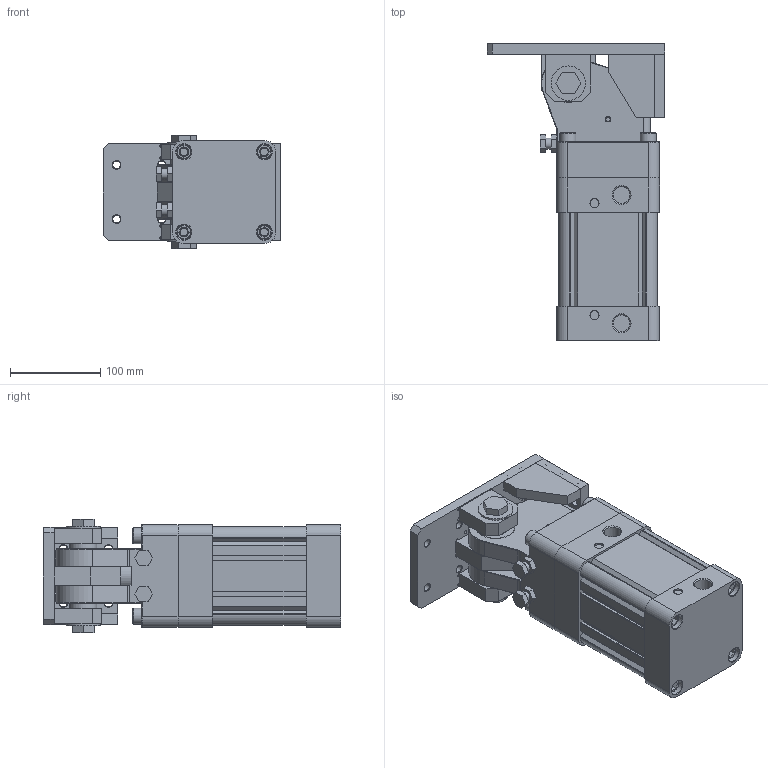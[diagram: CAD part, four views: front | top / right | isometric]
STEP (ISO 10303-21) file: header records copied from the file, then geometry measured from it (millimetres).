
FILE_DESCRIPTION(/* description */ (''),/* implementation_level */ '2;1');
FILE_NAME(/* name */ 'DHR2C-100M65PPV-ZG-LB.stp',/* time_stamp */ '2025-06-12T08:28:09+08:00',/* author */ (''),/* organization */ (''),/* preprocessor_version */ 'ST-DEVELOPER v15',/* originating_system */ 'SIEMENS PLM Software NX 10.0',/* authorisation */ '');
FILE_SCHEMA (('AP203_CONFIGURATION_CONTROLLED_3D_DESIGN_OF_MECHANICAL_PARTS_AND_ASSEMBLIES_MIM_LF { 1 0 10303 403 2 1 2}'));
Length unit declared in the file: millimetre
Products named in the file (1): Admi31B8C635pvut
Bounding box: 197 x 329 x 126 mm (x, y, z)
Volume: 3661953.1 mm3; surface area: 487416 mm2
Topology: 48 solids, 48 shells, 1055 faces, 2425 edges, 1567 vertices
Faces by surface type: plane 632, cylinder 235, cone 165, torus 19, bspline 4
Full cylindrical faces by diameter (mm): 3.3 x2, 4.2 x4, 5 x20, 6 x20, 6.4 x3, 6.5 x8, 6.75 x4, 8.1 x2, 8.5 x22, 9.75 x13, 10 x6, 10.5 x17, 11 x16, 12 x8, 13 x6, 14 x6, 16 x4, 17 x4, 18 x4, 18.6 x2, 20 x8, 30 x4, 31 x2, 32 x1, 34 x1, 38 x2, 42 x4, 55 x1, 58 x1
Entity records: 27491 total; most frequent: CARTESIAN_POINT 4985, DIRECTION 4689, ORIENTED_EDGE 3870, EDGE_CURVE 1935, AXIS2_PLACEMENT_3D 1728, EDGE_LOOP 1666, VERTEX_POINT 1458, LINE 1233
